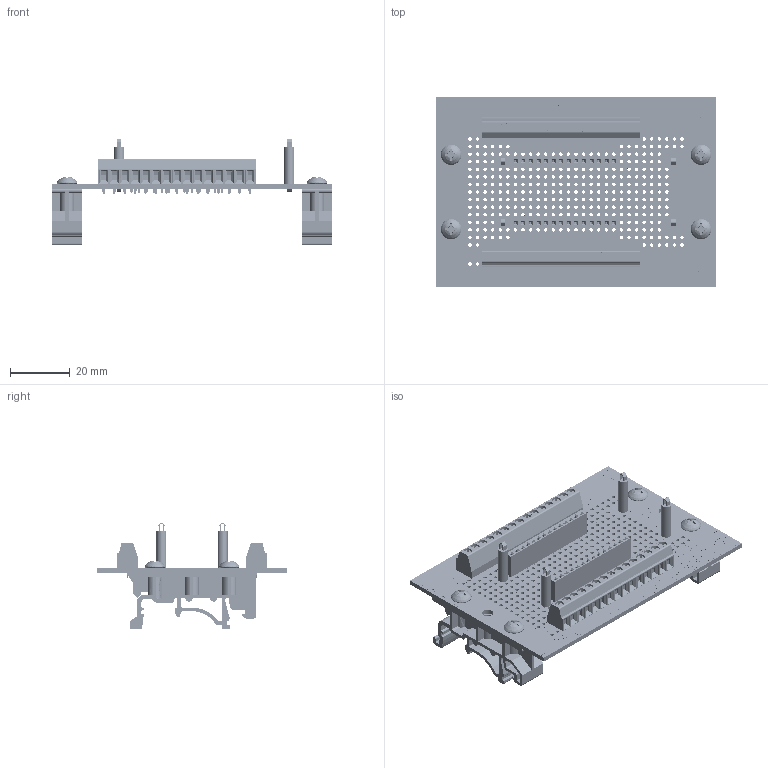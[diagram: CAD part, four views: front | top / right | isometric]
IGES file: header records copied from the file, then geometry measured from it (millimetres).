
Start section: SolidWorks IGES file using analytic representation for surfaces
Global section: file name: W:\end-user\products\rdbk\rdbkmkr\rdbkmkr1\3dmodel\rev_b\render\rdbkmkr1-din_rev_b.igs; native system: SolidWorks 2018; preprocessor: SolidWorks 2018; author: leviroy; date: 220816.085350; units: inch
Bounding box: 93.98 x 63.5 x 35.71 mm (x, y, z)
Surface area: 33793.4 mm2 (no closed solid volume)
Topology: 0 solids, 0 shells, 11054 faces, 106072 edges, 106072 vertices
Faces by surface type: bspline 9298, revolution 1756
